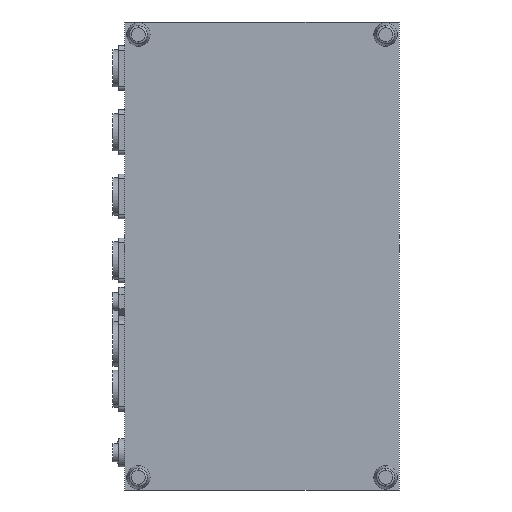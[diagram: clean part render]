
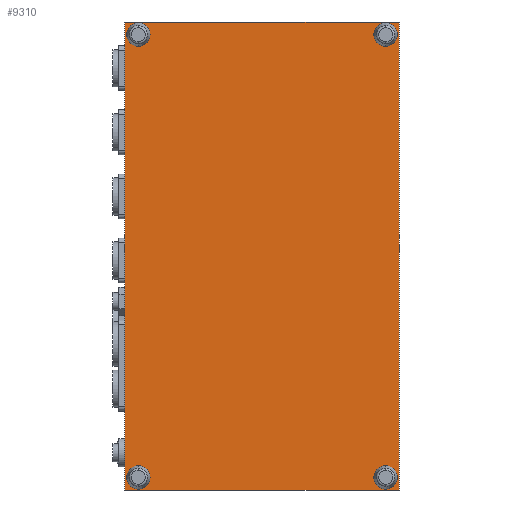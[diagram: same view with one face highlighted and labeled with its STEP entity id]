
A CAD part, left-side view. The second image highlights one B-rep face of the part: STEP entity #9310.
In plain terms, the highlighted planar face has unit normal (-1, 0, 0).
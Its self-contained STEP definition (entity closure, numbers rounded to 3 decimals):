
#24=DIRECTION('',(0.,-1.,0.));
#25=VECTOR('',#24,184.);
#26=CARTESIAN_POINT('',(0.,184.,-157.));
#27=LINE('',#26,#25);
#3386=DIRECTION('',(0.,0.,1.));
#3387=VECTOR('',#3386,314.);
#3388=CARTESIAN_POINT('',(0.,0.,-157.));
#3389=LINE('',#3388,#3387);
#3390=DIRECTION('',(0.,0.,1.));
#3391=VECTOR('',#3390,314.);
#3392=CARTESIAN_POINT('',(0.,184.,-157.));
#3393=LINE('',#3392,#3391);
#3394=CARTESIAN_POINT('',(0.,9.,148.5));
#3395=DIRECTION('',(-1.,0.,0.));
#3396=DIRECTION('',(0.,0.,-1.));
#3397=AXIS2_PLACEMENT_3D('',#3394,#3395,#3396);
#3399=CARTESIAN_POINT('',(0.,9.,148.5));
#3400=DIRECTION('',(-1.,0.,0.));
#3401=DIRECTION('',(0.,0.,1.));
#3402=AXIS2_PLACEMENT_3D('',#3399,#3400,#3401);
#3404=CARTESIAN_POINT('',(0.,9.,-148.5));
#3405=DIRECTION('',(-1.,0.,0.));
#3406=DIRECTION('',(0.,0.,-1.));
#3407=AXIS2_PLACEMENT_3D('',#3404,#3405,#3406);
#3409=CARTESIAN_POINT('',(0.,9.,-148.5));
#3410=DIRECTION('',(-1.,0.,0.));
#3411=DIRECTION('',(0.,0.,1.));
#3412=AXIS2_PLACEMENT_3D('',#3409,#3410,#3411);
#3414=CARTESIAN_POINT('',(0.,175.,148.5));
#3415=DIRECTION('',(-1.,0.,0.));
#3416=DIRECTION('',(0.,0.,-1.));
#3417=AXIS2_PLACEMENT_3D('',#3414,#3415,#3416);
#3419=CARTESIAN_POINT('',(0.,175.,148.5));
#3420=DIRECTION('',(-1.,0.,0.));
#3421=DIRECTION('',(0.,0.,1.));
#3422=AXIS2_PLACEMENT_3D('',#3419,#3420,#3421);
#3424=CARTESIAN_POINT('',(0.,175.,-148.5));
#3425=DIRECTION('',(-1.,0.,0.));
#3426=DIRECTION('',(0.,0.,-1.));
#3427=AXIS2_PLACEMENT_3D('',#3424,#3425,#3426);
#3429=CARTESIAN_POINT('',(0.,175.,-148.5));
#3430=DIRECTION('',(-1.,0.,0.));
#3431=DIRECTION('',(0.,0.,1.));
#3432=AXIS2_PLACEMENT_3D('',#3429,#3430,#3431);
#3446=DIRECTION('',(0.,-1.,0.));
#3447=VECTOR('',#3446,184.);
#3448=CARTESIAN_POINT('',(0.,184.,157.));
#3449=LINE('',#3448,#3447);
#3606=CARTESIAN_POINT('',(0.,184.,-157.));
#3607=CARTESIAN_POINT('',(0.,0.,-157.));
#3608=VERTEX_POINT('',#3606);
#3609=VERTEX_POINT('',#3607);
#3610=CARTESIAN_POINT('',(0.,184.,157.));
#3611=CARTESIAN_POINT('',(0.,0.,157.));
#3612=VERTEX_POINT('',#3610);
#3613=VERTEX_POINT('',#3611);
#3962=CARTESIAN_POINT('',(0.,9.,140.6));
#3963=CARTESIAN_POINT('',(0.,9.,156.4));
#3964=VERTEX_POINT('',#3962);
#3965=VERTEX_POINT('',#3963);
#3966=CARTESIAN_POINT('',(0.,9.,-156.4));
#3967=CARTESIAN_POINT('',(0.,9.,-140.6));
#3968=VERTEX_POINT('',#3966);
#3969=VERTEX_POINT('',#3967);
#3970=CARTESIAN_POINT('',(0.,175.,140.6));
#3971=CARTESIAN_POINT('',(0.,175.,156.4));
#3972=VERTEX_POINT('',#3970);
#3973=VERTEX_POINT('',#3971);
#3974=CARTESIAN_POINT('',(0.,175.,-156.4));
#3975=CARTESIAN_POINT('',(0.,175.,-140.6));
#3976=VERTEX_POINT('',#3974);
#3977=VERTEX_POINT('',#3975);
#9273=CARTESIAN_POINT('',(0.,184.,-157.));
#9274=DIRECTION('',(-1.,0.,0.));
#9275=DIRECTION('',(0.,-1.,0.));
#9276=AXIS2_PLACEMENT_3D('',#9273,#9274,#9275);
#9277=PLANE('',#9276);
#9278=ORIENTED_EDGE('',*,*,#4573,.F.);
#9280=ORIENTED_EDGE('',*,*,#9279,.T.);
#9282=ORIENTED_EDGE('',*,*,#9281,.T.);
#9283=ORIENTED_EDGE('',*,*,#9266,.F.);
#9284=EDGE_LOOP('',(#9278,#9280,#9282,#9283));
#9285=FACE_OUTER_BOUND('',#9284,.F.);
#9287=ORIENTED_EDGE('',*,*,#9286,.T.);
#9289=ORIENTED_EDGE('',*,*,#9288,.T.);
#9290=EDGE_LOOP('',(#9287,#9289));
#9291=FACE_BOUND('',#9290,.F.);
#9293=ORIENTED_EDGE('',*,*,#9292,.T.);
#9295=ORIENTED_EDGE('',*,*,#9294,.T.);
#9296=EDGE_LOOP('',(#9293,#9295));
#9297=FACE_BOUND('',#9296,.F.);
#9299=ORIENTED_EDGE('',*,*,#9298,.T.);
#9301=ORIENTED_EDGE('',*,*,#9300,.T.);
#9302=EDGE_LOOP('',(#9299,#9301));
#9303=FACE_BOUND('',#9302,.F.);
#9305=ORIENTED_EDGE('',*,*,#9304,.T.);
#9307=ORIENTED_EDGE('',*,*,#9306,.T.);
#9308=EDGE_LOOP('',(#9305,#9307));
#9309=FACE_BOUND('',#9308,.F.);
#3398=CIRCLE('',#3397,7.9);
#3403=CIRCLE('',#3402,7.9);
#3408=CIRCLE('',#3407,7.9);
#3413=CIRCLE('',#3412,7.9);
#3418=CIRCLE('',#3417,7.9);
#3423=CIRCLE('',#3422,7.9);
#3428=CIRCLE('',#3427,7.9);
#3433=CIRCLE('',#3432,7.9);
#4573=EDGE_CURVE('',#3608,#3609,#27,.T.);
#9266=EDGE_CURVE('',#3609,#3613,#3389,.T.);
#9279=EDGE_CURVE('',#3608,#3612,#3393,.T.);
#9281=EDGE_CURVE('',#3612,#3613,#3449,.T.);
#9286=EDGE_CURVE('',#3964,#3965,#3398,.T.);
#9288=EDGE_CURVE('',#3965,#3964,#3403,.T.);
#9292=EDGE_CURVE('',#3968,#3969,#3408,.T.);
#9294=EDGE_CURVE('',#3969,#3968,#3413,.T.);
#9298=EDGE_CURVE('',#3972,#3973,#3418,.T.);
#9300=EDGE_CURVE('',#3973,#3972,#3423,.T.);
#9304=EDGE_CURVE('',#3976,#3977,#3428,.T.);
#9306=EDGE_CURVE('',#3977,#3976,#3433,.T.);
#9310=ADVANCED_FACE('',(#9285,#9291,#9297,#9303,#9309),#9277,.T.);
